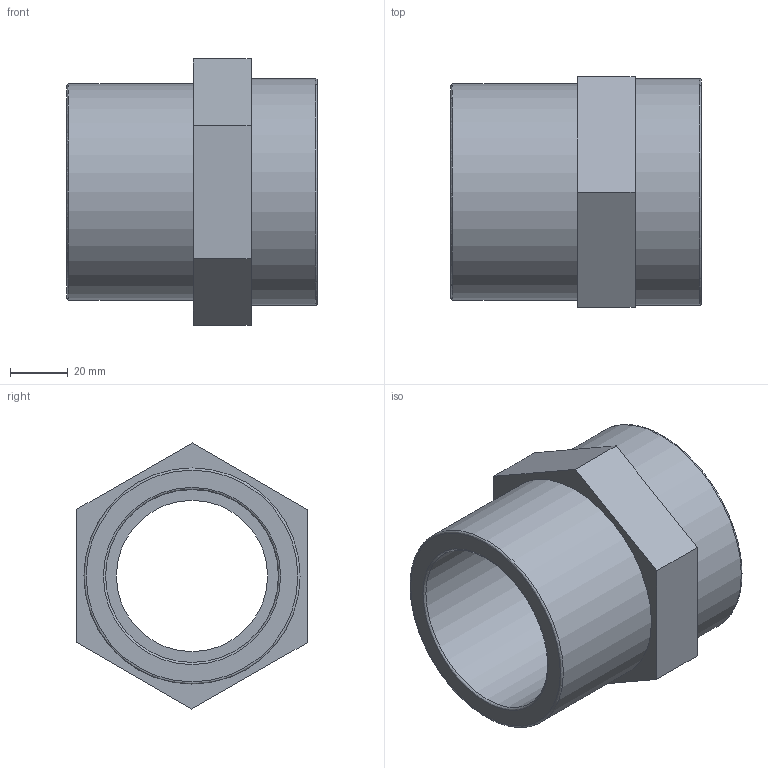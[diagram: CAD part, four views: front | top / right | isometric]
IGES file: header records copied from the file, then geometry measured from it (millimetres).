
Global section: file name: 050302075025.ipt; native system: Autodesk Inventor 2015; preprocessor: unknown; author: KIM; date: 20171207.164410; units: millimetre
Bounding box: 87 x 80.13 x 92.38 mm (x, y, z)
Volume: 138191.2 mm3; surface area: 45442.8 mm2
Topology: 1 solids, 1 shells, 21 faces, 55 edges, 40 vertices
Faces by surface type: plane 12, revolution 7, cylinder 2
Full cylindrical faces by diameter (mm): 75 x1, 78.75 x1
